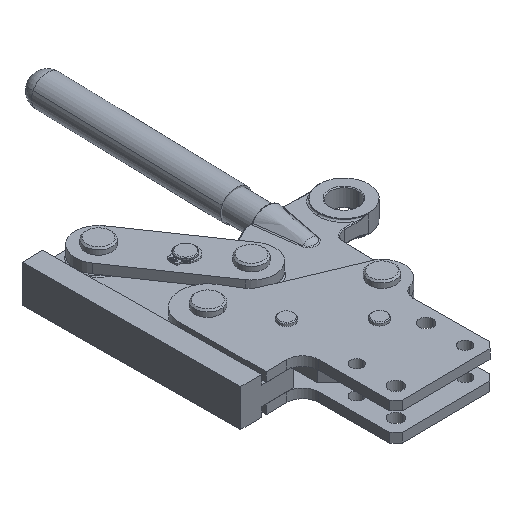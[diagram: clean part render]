
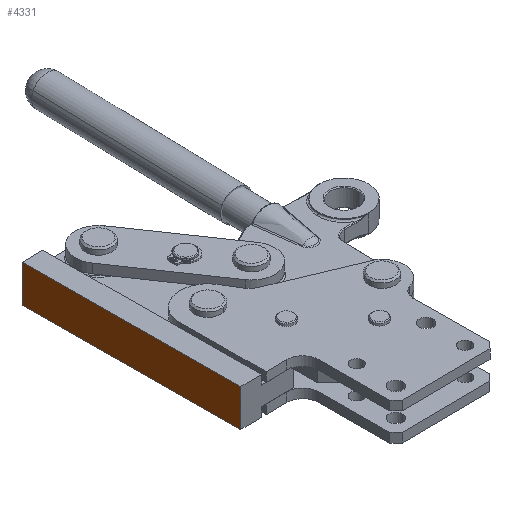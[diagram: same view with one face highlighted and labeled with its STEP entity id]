
A CAD part, isometric view. The second image highlights one B-rep face of the part: STEP entity #4331.
In plain terms, the highlighted planar face has unit normal (-1, -0.008, 0) as drawn and (-1, 0, 0) by its records, which use the part's own axes.
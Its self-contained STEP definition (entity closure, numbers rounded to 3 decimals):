
#75 = FACE_OUTER_BOUND ( 'NONE', #4728, .T. ) ;
#1041 = CARTESIAN_POINT ( 'NONE',  ( 0., 0., 16.5 ) ) ;
#1829 = CARTESIAN_POINT ( 'NONE',  ( 0., 140., -7.5 ) ) ;
#1972 = CARTESIAN_POINT ( 'NONE',  ( 0., 0., -7.5 ) ) ;
#2293 = EDGE_CURVE ( 'NONE', #4182, #8293, #7733, .T. ) ;
#3616 = CARTESIAN_POINT ( 'NONE',  ( 0., 140., 9. ) ) ;
#3658 = ORIENTED_EDGE ( 'NONE', *, *, #11321, .F. ) ;
#4182 = VERTEX_POINT ( 'NONE', #7295 ) ;
#4331 = ADVANCED_FACE ( 'NONE', ( #75 ), #4530, .F. ) ;
#4530 = PLANE ( 'NONE',  #7129 ) ;
#4728 = EDGE_LOOP ( 'NONE', ( #14002, #7974, #3658, #9022 ) ) ;
#4764 = VERTEX_POINT ( 'NONE', #1972 ) ;
#5543 = CARTESIAN_POINT ( 'NONE',  ( 0., 0., 9. ) ) ;
#6565 = DIRECTION ( 'NONE',  ( 1., 0., 0. ) ) ;
#7083 = EDGE_CURVE ( 'NONE', #8293, #4764, #10994, .T. ) ;
#7129 = AXIS2_PLACEMENT_3D ( 'NONE', #13407, #6565, #11003 ) ;
#7295 = CARTESIAN_POINT ( 'NONE',  ( 0., 140., 16.5 ) ) ;
#7531 = CARTESIAN_POINT ( 'NONE',  ( 0., 0., 16.5 ) ) ;
#7733 = LINE ( 'NONE', #1041, #8819 ) ;
#7794 = VECTOR ( 'NONE', #13996, 1000. ) ;
#7974 = ORIENTED_EDGE ( 'NONE', *, *, #13783, .T. ) ;
#8293 = VERTEX_POINT ( 'NONE', #7531 ) ;
#8819 = VECTOR ( 'NONE', #14291, 1000. ) ;
#9022 = ORIENTED_EDGE ( 'NONE', *, *, #7083, .F. ) ;
#9152 = LINE ( 'NONE', #3616, #12357 ) ;
#9220 = VECTOR ( 'NONE', #11068, 1000. ) ;
#9579 = LINE ( 'NONE', #11686, #7794 ) ;
#10377 = DIRECTION ( 'NONE',  ( 0., 0., -1. ) ) ;
#10608 = VERTEX_POINT ( 'NONE', #1829 ) ;
#10994 = LINE ( 'NONE', #5543, #9220 ) ;
#11003 = DIRECTION ( 'NONE',  ( 0., 1., 0. ) ) ;
#11068 = DIRECTION ( 'NONE',  ( 0., 0., -1. ) ) ;
#11321 = EDGE_CURVE ( 'NONE', #4764, #10608, #9579, .T. ) ;
#11686 = CARTESIAN_POINT ( 'NONE',  ( 0., 0., -7.5 ) ) ;
#12357 = VECTOR ( 'NONE', #10377, 1000. ) ;
#13407 = CARTESIAN_POINT ( 'NONE',  ( 0., 0., 9. ) ) ;
#13783 = EDGE_CURVE ( 'NONE', #4182, #10608, #9152, .T. ) ;
#13996 = DIRECTION ( 'NONE',  ( 0., 1., 0. ) ) ;
#14002 = ORIENTED_EDGE ( 'NONE', *, *, #2293, .F. ) ;
#14291 = DIRECTION ( 'NONE',  ( 0., -1., 0. ) ) ;
